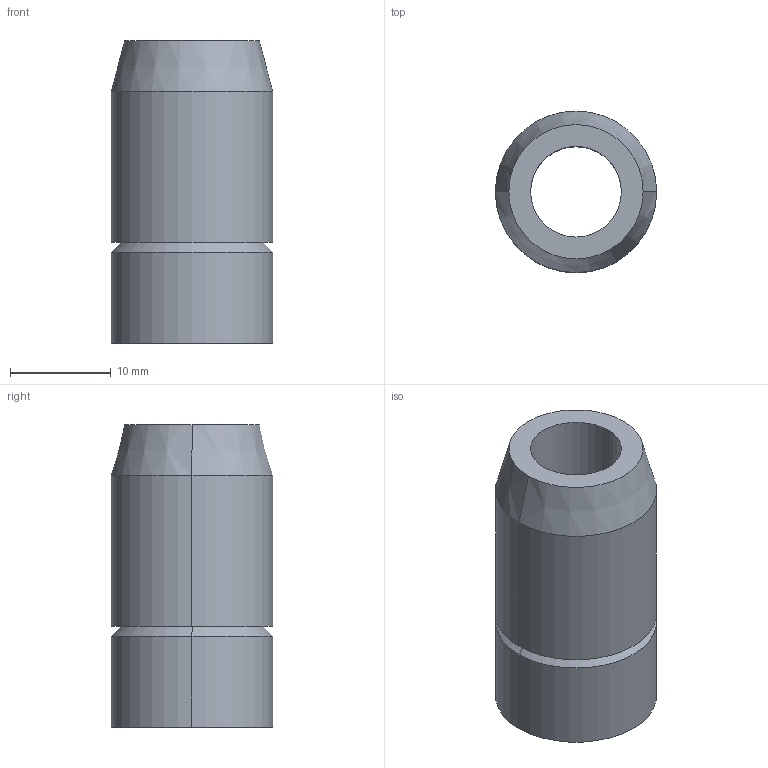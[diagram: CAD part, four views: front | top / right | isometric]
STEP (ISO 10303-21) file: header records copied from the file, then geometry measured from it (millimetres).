
FILE_DESCRIPTION(/* description */ (''),/* implementation_level */ '2;1');
FILE_NAME(/* name */ '3d_s14_07092_r00.stp',/* time_stamp */ '2011-01-10T14:11:30+09:00',/* author */ ('MISUMI'),/* organization */ (''),/* preprocessor_version */ 'ST-DEVELOPER v11',/* originating_system */ 'UGS - NX 5.0',/* authorisation */ '');
FILE_SCHEMA (('CONFIG_CONTROL_DESIGN'));
Length unit declared in the file: millimetre
Products named in the file (1): 3d_s14_07092_r00
Bounding box: 16 x 16 x 30 mm (x, y, z)
Volume: 3940.3 mm3; surface area: 2620 mm2
Topology: 1 solids, 1 shells, 13 faces, 26 edges, 16 vertices
Faces by surface type: cylinder 6, cone 4, plane 3
Entity records: 434 total; most frequent: DIRECTION 70, CARTESIAN_POINT 56, ORIENTED_EDGE 52, AXIS2_PLACEMENT_3D 30, EDGE_CURVE 26, EDGE_LOOP 16, CIRCLE 16, VERTEX_POINT 16
